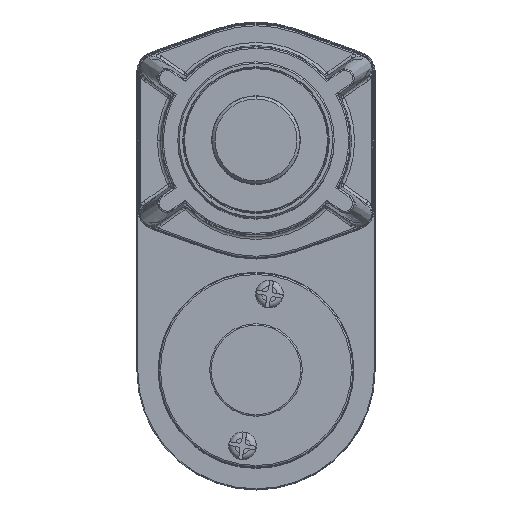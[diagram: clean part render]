
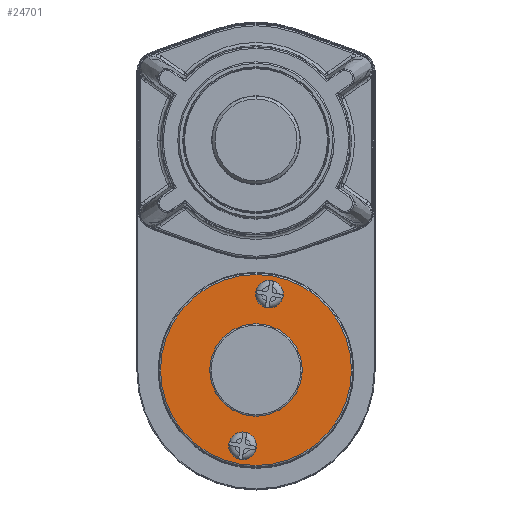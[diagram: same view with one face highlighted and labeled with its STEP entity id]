
A CAD part, top view. The second image highlights one B-rep face of the part: STEP entity #24701.
In plain terms, the highlighted planar face has unit normal (0, 0, 1).
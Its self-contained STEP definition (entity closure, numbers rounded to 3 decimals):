
#713 = AXIS2_PLACEMENT_3D ( 'NONE', #5106, #12295, #69767 ) ;
#1076 = CARTESIAN_POINT ( 'NONE',  ( -13.407, -21.584, 284.9 ) ) ;
#1769 = DIRECTION ( 'NONE',  ( 0., 0., 1. ) ) ;
#1991 = VERTEX_POINT ( 'NONE', #37794 ) ;
#2112 = AXIS2_PLACEMENT_3D ( 'NONE', #68996, #43668, #69830 ) ;
#2319 = DIRECTION ( 'NONE',  ( 0., 0., 1. ) ) ;
#2889 = FACE_BOUND ( 'NONE', #57715, .T. ) ;
#2987 = AXIS2_PLACEMENT_3D ( 'NONE', #40303, #8153, #42381 ) ;
#3071 = CIRCLE ( 'NONE', #22038, 4.5 ) ;
#4224 = DIRECTION ( 'NONE',  ( -0.174, -0.985, 0. ) ) ;
#5106 = CARTESIAN_POINT ( 'NONE',  ( -17.749, -46.204, 284.9 ) ) ;
#5848 = ORIENTED_EDGE ( 'NONE', *, *, #83690, .F. ) ;
#8153 = DIRECTION ( 'NONE',  ( 0., 0., 1. ) ) ;
#8385 = CIRCLE ( 'NONE', #2987, 15. ) ;
#9256 = VERTEX_POINT ( 'NONE', #74864 ) ;
#11215 = EDGE_LOOP ( 'NONE', ( #71254, #59631 ) ) ;
#12295 = DIRECTION ( 'NONE',  ( 0., 0., 1. ) ) ;
#12597 = CARTESIAN_POINT ( 'NONE',  ( -22.09, -70.824, 284.9 ) ) ;
#13268 = VERTEX_POINT ( 'NONE', #19716 ) ;
#14348 = PLANE ( 'NONE',  #44114 ) ;
#14389 = VERTEX_POINT ( 'NONE', #51524 ) ;
#14973 = EDGE_CURVE ( 'NONE', #9256, #14389, #70959, .T. ) ;
#15004 = DIRECTION ( 'NONE',  ( -0.174, -0.985, 0. ) ) ;
#19716 = CARTESIAN_POINT ( 'NONE',  ( -15.144, -31.432, 284.9 ) ) ;
#21522 = FACE_BOUND ( 'NONE', #57305, .T. ) ;
#22038 = AXIS2_PLACEMENT_3D ( 'NONE', #1076, #2319, #15004 ) ;
#24701 = ADVANCED_FACE ( 'NONE', ( #21522, #59944, #47283, #2889 ), #14348, .T. ) ;
#26977 = VERTEX_POINT ( 'NONE', #40728 ) ;
#27094 = CARTESIAN_POINT ( 'NONE',  ( -17.749, -46.204, 284.9 ) ) ;
#27097 = AXIS2_PLACEMENT_3D ( 'NONE', #12597, #82364, #70062 ) ;
#30795 = CARTESIAN_POINT ( 'NONE',  ( -21.308, -66.393, 284.9 ) ) ;
#31130 = CIRCLE ( 'NONE', #27097, 4.5 ) ;
#33751 = EDGE_CURVE ( 'NONE', #48251, #26977, #73027, .T. ) ;
#33898 = CARTESIAN_POINT ( 'NONE',  ( -13.407, -21.584, 284.9 ) ) ;
#34291 = VERTEX_POINT ( 'NONE', #30795 ) ;
#35303 = CIRCLE ( 'NONE', #36642, 15. ) ;
#35461 = CARTESIAN_POINT ( 'NONE',  ( -2.976, -48.809, 284.9 ) ) ;
#36627 = AXIS2_PLACEMENT_3D ( 'NONE', #33898, #1769, #46983 ) ;
#36642 = AXIS2_PLACEMENT_3D ( 'NONE', #27094, #38958, #70625 ) ;
#36880 = EDGE_CURVE ( 'NONE', #26977, #48251, #3071, .T. ) ;
#37794 = CARTESIAN_POINT ( 'NONE',  ( -20.353, -60.976, 284.9 ) ) ;
#38958 = DIRECTION ( 'NONE',  ( 0., 0., 1. ) ) ;
#40303 = CARTESIAN_POINT ( 'NONE',  ( -17.749, -46.204, 284.9 ) ) ;
#40728 = CARTESIAN_POINT ( 'NONE',  ( -14.189, -26.016, 284.9 ) ) ;
#41275 = CIRCLE ( 'NONE', #713, 31. ) ;
#41451 = DIRECTION ( 'NONE',  ( 0., 0., 1. ) ) ;
#42381 = DIRECTION ( 'NONE',  ( -0.174, -0.985, 0. ) ) ;
#43668 = DIRECTION ( 'NONE',  ( 0., 0., 1. ) ) ;
#44114 = AXIS2_PLACEMENT_3D ( 'NONE', #35461, #67124, #72238 ) ;
#46983 = DIRECTION ( 'NONE',  ( -0.174, -0.985, 0. ) ) ;
#47283 = FACE_OUTER_BOUND ( 'NONE', #11215, .T. ) ;
#48251 = VERTEX_POINT ( 'NONE', #53398 ) ;
#49175 = EDGE_CURVE ( 'NONE', #50683, #34291, #31130, .T. ) ;
#50683 = VERTEX_POINT ( 'NONE', #52560 ) ;
#51524 = CARTESIAN_POINT ( 'NONE',  ( -12.365, -15.675, 284.9 ) ) ;
#52560 = CARTESIAN_POINT ( 'NONE',  ( -22.871, -75.256, 284.9 ) ) ;
#53398 = CARTESIAN_POINT ( 'NONE',  ( -12.626, -17.152, 284.9 ) ) ;
#57305 = EDGE_LOOP ( 'NONE', ( #5848, #68627 ) ) ;
#57715 = EDGE_LOOP ( 'NONE', ( #80066, #78106 ) ) ;
#59631 = ORIENTED_EDGE ( 'NONE', *, *, #76746, .T. ) ;
#59944 = FACE_BOUND ( 'NONE', #67839, .T. ) ;
#60414 = EDGE_CURVE ( 'NONE', #13268, #1991, #35303, .T. ) ;
#61672 = EDGE_CURVE ( 'NONE', #1991, #13268, #8385, .T. ) ;
#62119 = CARTESIAN_POINT ( 'NONE',  ( -22.09, -70.824, 284.9 ) ) ;
#64555 = CIRCLE ( 'NONE', #76775, 4.5 ) ;
#67124 = DIRECTION ( 'NONE',  ( 0., 0., 1. ) ) ;
#67839 = EDGE_LOOP ( 'NONE', ( #69073, #69620 ) ) ;
#68627 = ORIENTED_EDGE ( 'NONE', *, *, #49175, .F. ) ;
#68996 = CARTESIAN_POINT ( 'NONE',  ( -17.749, -46.204, 284.9 ) ) ;
#69073 = ORIENTED_EDGE ( 'NONE', *, *, #33751, .F. ) ;
#69620 = ORIENTED_EDGE ( 'NONE', *, *, #36880, .F. ) ;
#69767 = DIRECTION ( 'NONE',  ( -0.174, -0.985, 0. ) ) ;
#69830 = DIRECTION ( 'NONE',  ( -0.174, -0.985, 0. ) ) ;
#70062 = DIRECTION ( 'NONE',  ( -0.174, -0.985, 0. ) ) ;
#70625 = DIRECTION ( 'NONE',  ( -0.174, -0.985, 0. ) ) ;
#70959 = CIRCLE ( 'NONE', #2112, 31. ) ;
#71254 = ORIENTED_EDGE ( 'NONE', *, *, #14973, .T. ) ;
#72238 = DIRECTION ( 'NONE',  ( -0.174, -0.985, 0. ) ) ;
#73027 = CIRCLE ( 'NONE', #36627, 4.5 ) ;
#74864 = CARTESIAN_POINT ( 'NONE',  ( -23.132, -76.733, 284.9 ) ) ;
#76746 = EDGE_CURVE ( 'NONE', #14389, #9256, #41275, .T. ) ;
#76775 = AXIS2_PLACEMENT_3D ( 'NONE', #62119, #41451, #4224 ) ;
#78106 = ORIENTED_EDGE ( 'NONE', *, *, #60414, .F. ) ;
#80066 = ORIENTED_EDGE ( 'NONE', *, *, #61672, .F. ) ;
#82364 = DIRECTION ( 'NONE',  ( 0., 0., 1. ) ) ;
#83690 = EDGE_CURVE ( 'NONE', #34291, #50683, #64555, .T. ) ;
